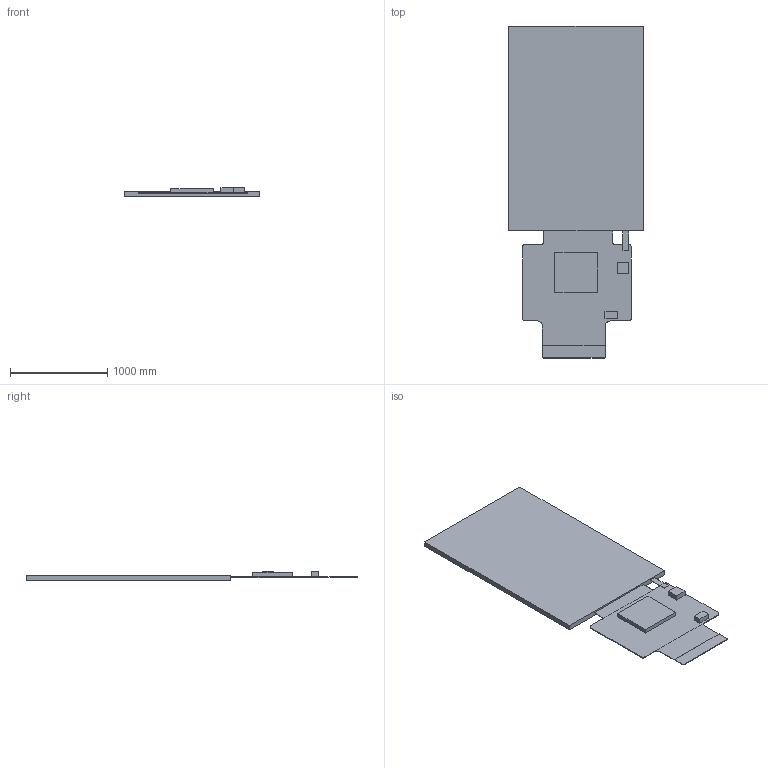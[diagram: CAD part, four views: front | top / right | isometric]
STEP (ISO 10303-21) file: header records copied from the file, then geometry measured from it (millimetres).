
FILE_DESCRIPTION((''),'2;1');
FILE_NAME('3D-DMG48320F035-01WN-211203-2','2021-12-03T',('Administrator'),(''),'PRO/ENGINEER BY PARAMETRIC TECHNOLOGY CORPORATION, 2008380','PRO/ENGINEER BY PARAMETRIC TECHNOLOGY CORPORATION, 2008380','');
FILE_SCHEMA(('CONFIG_CONTROL_DESIGN'));
Length unit declared in the file: inch
Products named in the file (1): 3D-DMG48320F035-01WN-211203-2
Bounding box: 1384.3 x 3415.64 x 90.17 mm (x, y, z)
Volume: 173894696.7 mm3; surface area: 8835398.1 mm2
Topology: 1 solids, 1 shells, 55 faces, 152 edges, 102 vertices
Faces by surface type: plane 43, cylinder 12
Entity records: 1789 total; most frequent: CARTESIAN_POINT 306, ORIENTED_EDGE 296, DIRECTION 289, EDGE_CURVE 148, VECTOR 127, LINE 127, VERTEX_POINT 98, AXIS2_PLACEMENT_3D 81
